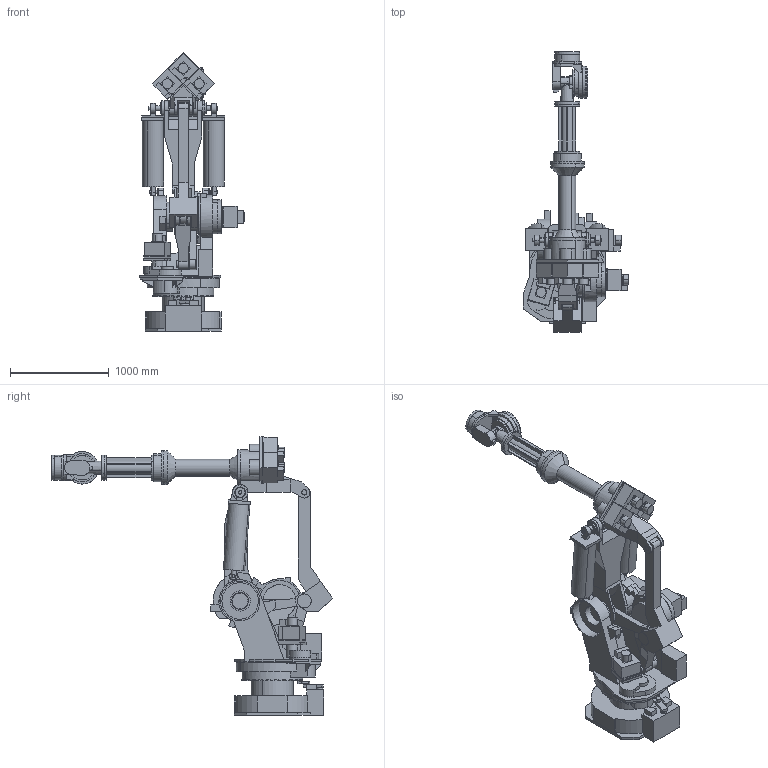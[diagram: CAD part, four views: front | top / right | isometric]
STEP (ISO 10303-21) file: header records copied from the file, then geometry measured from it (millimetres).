
FILE_DESCRIPTION(('CATIA V5 STEP Exchange'),'2;1');
FILE_NAME('F:\☆新しいフォルダ\【K-ROSET】\K-ROSET_モデル\ロボット\※ヤスナ様依頼分データ確認\_MX350L_簡素化\MX350L catiaASSY.stp','2015-09-11T07:53:53+00:00',('none'),('none'),'Version 5-6 Release 2012','CATIA V5 STEP AP203','none');
FILE_SCHEMA(('CONFIG_CONTROL_DESIGN'));
Length unit declared in the file: millimetre
Products named in the file (1): MX350L catiaASSY
Assembly tree (11 placements, depth 2):
  MX350L catiaASSY
    #57
    #1816
    #15276
    #19394
    #20041
    #22176
    #23758
    #23862
    #25454
    #26321
    #27175
Bounding box: 1066.5 x 2844.34 x 2826.06 mm (x, y, z)
Surface area: 17729854.9 mm2 (no closed solid volume)
Topology: 0 solids, 13 shells, 1086 faces, 2922 edges, 1952 vertices
Faces by surface type: plane 736, cylinder 332, cone 14, bspline 4
Entity records: 32690 total; most frequent: CARTESIAN_POINT 6559, ORIENTED_EDGE 5844, DIRECTION 4409, EDGE_CURVE 2922, VECTOR 1956, LINE 1956, VERTEX_POINT 1952, AXIS2_PLACEMENT_3D 1677
